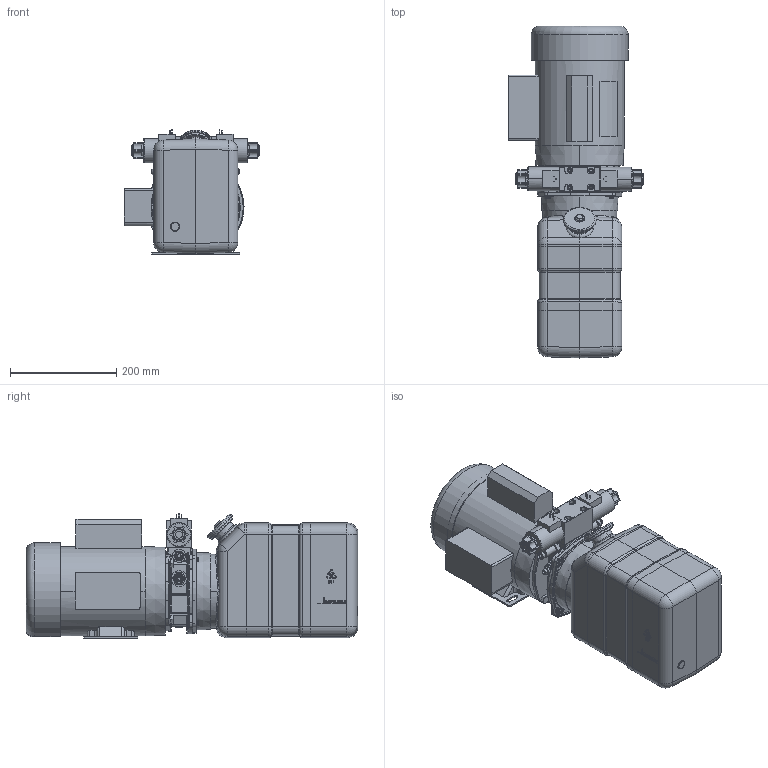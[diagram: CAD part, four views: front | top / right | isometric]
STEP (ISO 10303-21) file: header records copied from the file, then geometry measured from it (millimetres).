
FILE_DESCRIPTION((''),'2;1');
FILE_NAME('649442_SW0002','2016-03-08T',('gb10196'),('OILDYNE'),'PRO/ENGINEER BY PARAMETRIC TECHNOLOGY CORPORATION, 2009300','PRO/ENGINEER BY PARAMETRIC TECHNOLOGY CORPORATION, 2009300','');
FILE_SCHEMA(('CONFIG_CONTROL_DESIGN'));
Products named in the file (1): 649442_SW0002
Bounding box: 255.3 x 624.84 x 235.25 mm (x, y, z)
Surface area: 939986.7 mm2 (no closed solid volume)
Topology: 0 solids, 84 shells, 1838 faces, 5542 edges, 3712 vertices
Faces by surface type: plane 578, cylinder 517, bspline 249, cone 243, torus 149, sphere 102
Entity records: 74439 total; most frequent: CARTESIAN_POINT 27109, DIRECTION 9696, ORIENTED_EDGE 9247, EDGE_CURVE 5529, VERTEX_POINT 3712, AXIS2_PLACEMENT_3D 3660, VECTOR 2376, LINE 2376
